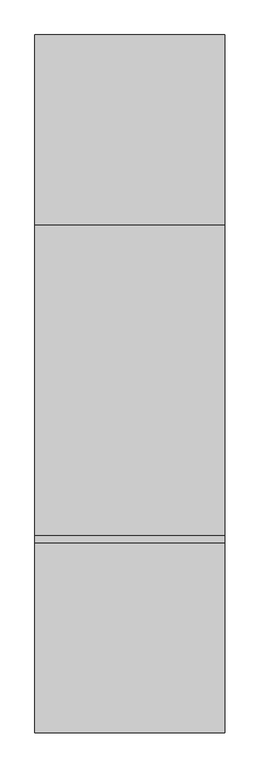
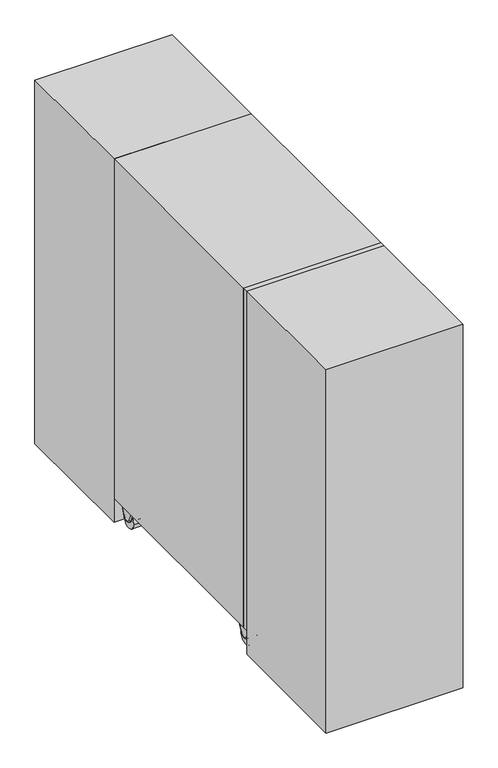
"""IFC4 building model written with IfcOpenShell, lengths in millimetres: proxy geometry, Трехфазный ИБП_ЛЕГИОН_СайберЭлектро : ЛЕГИОН-3Ф-40К-Ш."""

from ifc_helpers import new_model, si_unit, point, frame, origin, origin_with_axes, place, context, project, spatial, polyline, circle_curve, ellipse_curve, trimmed, outline, extrude, source, transform, mapped, element, save
from ifc_brep_helpers import plane_surface, cylinder_surface, revolved_surface, advanced_brep


def electrical_equipment_480f16ba(model_context):
    return source(origin(), model_context, "Body", "SolidModel", [
        advanced_brep(
        [(232.5584286, -22.026834, 73.0926887), (232.5584286, -31.2318826, 87.0), (232.5584286, -68.7681174, 87.0), (232.5584286, -77.973166, 73.0926887), (232.5584286, -63.8075728, 39.7206426), (232.5584286, -36.1924272, 39.7206426), (187.4415714, -31.2318826, 87.0), (187.4415714, -22.026834, 73.0926887), (187.4415714, -36.1924272, 39.7206426), (187.4415714, -63.8075728, 39.7206426), (187.4415714, -77.973166, 73.0926887), (187.4415714, -68.7681174, 87.0), (227.5584286, -31.2318826, 92.0), (192.4415641, -31.2318826, 92.0), (192.4415714, -68.7681174, 92.0), (227.5584286, -68.7681174, 92.0), (192.4415714, -82.5756902, 71.1390331), (227.5584286, -82.5756902, 71.1390331), (225.0, -73.1912444, 49.0306642), (225.0, -68.4100971, 37.7669869), (227.5584286, -68.4100971, 37.7669869), (192.4415714, -68.4100971, 37.7669869), (195.0, -68.4100971, 37.7669869), (195.0, -73.1912444, 49.0306642), (225.0, -31.5899029, 37.7669869), (227.5584286, -31.5899029, 37.7669869), (195.0, -31.5899029, 37.7669869), (192.4415714, -31.5899029, 37.7669869), (225.0, -26.8087556, 49.0306642), (195.0, -26.8087556, 49.0306642), (192.4415714, -17.4243098, 71.1390331), (227.5584286, -17.4243098, 71.1390331), (225.0, -80.0, 30.0), (225.0, -20.0, 30.0), (195.0, -20.0, 30.0), (195.0, -80.0, 30.0)],
        [
            (0, 1, circle_curve(frame((232.5584286, -31.2318826, 77.0), z_axis=(1.0, 0.0, 0.0), x_axis=(0.0, 0.0, 1.0)), 10.0)),
            (1, 2),
            (2, 3, circle_curve(frame((232.5584286, -68.7681174, 77.0), z_axis=(1.0, 0.0, 0.0), x_axis=(0.0, -0.9205048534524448, -0.3907311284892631)), 10.0)),
            (3, 4),
            (4, 5, circle_curve(frame((232.5584286, -50.0, 45.5816095), z_axis=(1.0, 0.0, 0.0), x_axis=(0.0, 0.9205048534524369, -0.3907311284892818)), 15.0)),
            (5, 0),
            (6, 7, circle_curve(frame((187.4415714, -31.2318826, 77.0), z_axis=(-1.0, 0.0, 0.0), x_axis=(0.0, 0.0, 1.0)), 10.0)),
            (7, 8),
            (8, 9, circle_curve(frame((187.4415714, -50.0, 45.5816095), z_axis=(-1.0, 0.0, 0.0), x_axis=(0.0, 0.9205048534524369, -0.3907311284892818)), 15.0)),
            (9, 10),
            (10, 11, circle_curve(frame((187.4415714, -68.7681174, 77.0), z_axis=(-1.0, 0.0, 0.0), x_axis=(0.0, -0.9205048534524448, -0.3907311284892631)), 10.0)),
            (11, 6),
            (12, 13),
            (13, 14),
            (14, 15),
            (15, 12),
            (14, 16, circle_curve(frame((192.4415714, -68.7681174, 77.0), z_axis=(1.0, 0.0, 0.0), x_axis=(0.0, 1.0, 0.0)), 15.0)),
            (16, 17),
            (17, 15, circle_curve(frame((227.5584286, -68.7681174, 77.0), z_axis=(-1.0, 0.0, 0.0), x_axis=(0.0, 1.0, 0.0)), 15.0)),
            (18, 19),
            (19, 20),
            (20, 17),
            (16, 21),
            (21, 22),
            (22, 23),
            (23, 18),
            (19, 24, circle_curve(frame((225.0, -50.0, 45.5816095), z_axis=(1.0, 0.0, 0.0), x_axis=(0.0, 1.0, 0.0)), 20.0)),
            (24, 25),
            (25, 20, circle_curve(frame((227.5584286, -50.0, 45.5816095), z_axis=(-1.0, 0.0, 0.0), x_axis=(0.0, 1.0, 0.0)), 20.0)),
            (26, 22, circle_curve(frame((195.0, -50.0, 45.5816095), z_axis=(-1.0, 0.0, 0.0), x_axis=(0.0, 1.0, 0.0)), 20.0)),
            (21, 27, circle_curve(frame((192.4415714, -50.0, 45.5816095), z_axis=(1.0, 0.0, 0.0), x_axis=(0.0, 1.0, 0.0)), 20.0)),
            (27, 26),
            (24, 28),
            (28, 29),
            (29, 26),
            (27, 30),
            (30, 31),
            (31, 25),
            (12, 31, circle_curve(frame((227.5584286, -31.2318826, 77.0), z_axis=(-1.0, 0.0, 0.0), x_axis=(0.0, 1.0, 0.0)), 15.0)),
            (30, 13, circle_curve(frame((192.4415714, -31.2318826, 77.0), z_axis=(1.0, 0.0, 0.0), x_axis=(0.0, 1.0, 0.0)), 15.0)),
            (32, 33, circle_curve(frame((225.0, -50.0, 30.0), z_axis=(1.0, 0.0, 0.0), x_axis=(0.0, -1.0, 0.0)), 30.0)),
            (33, 28, circle_curve(frame((225.0, -50.0, 30.0), z_axis=(1.0, 0.0, 0.0), x_axis=(0.0, -1.0, 0.0)), 30.0)),
            (18, 32, circle_curve(frame((225.0, -50.0, 30.0), z_axis=(1.0, 0.0, 0.0), x_axis=(0.0, -1.0, 0.0)), 30.0)),
            (34, 35, circle_curve(frame((195.0, -50.0, 30.0), z_axis=(-1.0, 0.0, 0.0), x_axis=(0.0, -1.0, 0.0)), 30.0)),
            (35, 23, circle_curve(frame((195.0, -50.0, 30.0), z_axis=(-1.0, 0.0, 0.0), x_axis=(0.0, -1.0, 0.0)), 30.0)),
            (29, 34, circle_curve(frame((195.0, -50.0, 30.0), z_axis=(-1.0, 0.0, 0.0), x_axis=(0.0, -1.0, 0.0)), 30.0)),
            (33, 34),
            (35, 32),
            (30, 7, circle_curve(frame((192.4415714, -22.026834, 73.0926887), z_axis=(0.0, 0.3907311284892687, 0.9205048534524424), x_axis=(-1.0, 0.0, 0.0)), 5.0)),
            (6, 13, circle_curve(frame((192.4415714, -31.2318826, 87.0), z_axis=(0.0, 1.0, 0.0), x_axis=(-1.0, 0.0, 0.0)), 5.0)),
            (0, 31, circle_curve(frame((227.5584286, -22.026834, 73.0926887), z_axis=(0.0, 0.3907311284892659, 0.9205048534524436), x_axis=(-1.0, 0.0, 0.0)), 5.0)),
            (12, 1, circle_curve(frame((227.5584286, -31.2318826, 87.0), z_axis=(0.0, 1.0, 0.0), x_axis=(-1.0, 0.0, 0.0)), 5.0)),
            (27, 8, circle_curve(frame((192.4415714, -36.1924272, 39.7206426), z_axis=(0.0, 0.3907311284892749, 0.9205048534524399), x_axis=(-1.0, 0.0, 0.0)), 5.0)),
            (5, 25, circle_curve(frame((227.5584286, -36.1924272, 39.7206426), z_axis=(0.0, 0.3907311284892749, 0.9205048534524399), x_axis=(-1.0, 0.0, 0.0)), 5.0)),
            (21, 9, circle_curve(frame((192.4415714, -63.8075728, 39.7206426), z_axis=(0.0, 0.39073112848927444, -0.9205048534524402), x_axis=(-1.0, 0.0, 0.0)), 5.0)),
            (4, 20, circle_curve(frame((227.5584286, -63.8075728, 39.7206426), z_axis=(0.0, 0.39073112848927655, -0.9205048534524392), x_axis=(-1.0, 0.0, 0.0)), 5.0)),
            (16, 10, circle_curve(frame((192.4415714, -77.973166, 73.0926887), z_axis=(0.0, 0.39073112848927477, -0.92050485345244), x_axis=(-1.0, 0.0, 0.0)), 5.0)),
            (3, 17, circle_curve(frame((227.5584286, -77.973166, 73.0926887), z_axis=(0.0, 0.39073112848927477, -0.92050485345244), x_axis=(-1.0, 0.0, 0.0)), 5.0)),
            (14, 11, circle_curve(frame((192.4415714, -68.7681174, 87.0), z_axis=(0.0, -1.0, 0.0), x_axis=(-1.0, 0.0, 0.0)), 5.0)),
            (2, 15, circle_curve(frame((227.5584286, -68.7681174, 87.0), z_axis=(0.0, -1.0, 0.0), x_axis=(-1.0, 0.0, 0.0)), 5.0)),
        ],
        [
            plane_surface(frame((232.5584286, -50.0, 92.0), z_axis=(1.0, 0.0, 0.0), x_axis=(0.0, -1.0, 0.0))),
            plane_surface(frame((187.4415714, -50.0, 92.0), z_axis=(-1.0, 0.0, 0.0), x_axis=(0.0, 1.0, 0.0))),
            plane_surface(frame((232.5584286, -31.2318826, 92.0), z_axis=(0.0, 0.0, 1.0), x_axis=(-1.0, 0.0, 0.0))),
            cylinder_surface(frame((187.4415714, -68.7681174, 77.0), z_axis=(1.0, 0.0, 0.0), x_axis=(0.0, 1.0, 0.0)), 15.0),
            plane_surface(frame((232.5584286, -82.5756902, 71.1390331), z_axis=(0.0, -0.9205048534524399, -0.39073112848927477), x_axis=(-1.0, 0.0, 0.0))),
            cylinder_surface(frame((187.4415714, -50.0, 45.5816095), z_axis=(1.0, 0.0, 0.0), x_axis=(0.0, 1.0, 0.0)), 20.0),
            plane_surface(frame((232.5584286, -31.5899029, 37.7669869), z_axis=(0.0, 0.9205048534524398, -0.3907311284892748), x_axis=(-1.0, 0.0, 0.0))),
            cylinder_surface(frame((187.4415714, -31.2318826, 77.0), z_axis=(1.0, 0.0, 0.0), x_axis=(0.0, 1.0, 0.0)), 15.0),
            plane_surface(frame((225.0, -80.0, 30.0), z_axis=(1.0, 0.0, 0.0), x_axis=(0.0, 0.0, -1.0))),
            plane_surface(frame((195.0, -80.0, 30.0), z_axis=(-1.0, 0.0, 0.0), x_axis=(0.0, 0.0, 1.0))),
            cylinder_surface(frame((195.0, -50.0, 30.0), z_axis=(1.0, 0.0, 0.0), x_axis=(0.0, -1.0, 0.0)), 30.0),
            revolved_surface(trimmed(ellipse_curve(frame((192.4415714, -31.2318826, 87.0), z_axis=(0.0, -1.0, 0.0), x_axis=(-1.0, 0.0, 0.0)), 5.0, 5.0), [point((192.4415714, -31.2318826, 92.0))], [point((187.4415714, -31.2318826, 87.0))], True, "CARTESIAN"), (187.4415714, -31.2318826, 77.0), (-1.0, 0.0, 0.0)),
            revolved_surface(trimmed(ellipse_curve(frame((227.5584286, -31.2318826, 87.0), z_axis=(0.0, -1.0, 0.0), x_axis=(-1.0, 0.0, 0.0)), 5.0, 5.0), [point((232.5584286, -31.2318826, 87.0))], [point((227.5584286, -31.2318826, 92.0))], True, "CARTESIAN"), (187.4415714, -31.2318826, 77.0), (-1.0, 0.0, 0.0)),
            cylinder_surface(frame((192.4415714, -22.026834, 73.0926887), z_axis=(0.0, -0.3907311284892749, -0.9205048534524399), x_axis=(-1.0, 0.0, 0.0)), 5.0),
            cylinder_surface(frame((227.5584286, -22.026834, 73.0926887), z_axis=(0.0, -0.3907311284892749, -0.9205048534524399), x_axis=(-1.0, 0.0, 0.0)), 5.0),
            revolved_surface(trimmed(ellipse_curve(frame((192.4415714, -36.1924272, 39.7206426), z_axis=(0.0, 0.39073112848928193, 0.9205048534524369), x_axis=(-1.0, 0.0, 0.0)), 5.0, 5.0), [point((192.4415714, -31.5899029, 37.7669869))], [point((187.4415714, -36.1924272, 39.7206426))], True, "CARTESIAN"), (187.4415714, -50.0, 45.5816095), (-1.0, 0.0, 0.0)),
            revolved_surface(trimmed(ellipse_curve(frame((227.5584286, -36.1924272, 39.7206426), z_axis=(0.0, 0.39073112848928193, 0.9205048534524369), x_axis=(-1.0, 0.0, 0.0)), 5.0, 5.0), [point((232.5584286, -36.1924272, 39.7206426))], [point((227.5584286, -31.5899029, 37.7669869))], True, "CARTESIAN"), (187.4415714, -50.0, 45.5816095), (-1.0, 0.0, 0.0)),
            cylinder_surface(frame((192.4415714, -63.8075728, 39.7206426), z_axis=(0.0, -0.39073112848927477, 0.92050485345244), x_axis=(-1.0, 0.0, 0.0)), 5.0),
            cylinder_surface(frame((227.5584286, -63.8075728, 39.7206426), z_axis=(0.0, -0.39073112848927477, 0.92050485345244), x_axis=(-1.0, 0.0, 0.0)), 5.0),
            revolved_surface(trimmed(ellipse_curve(frame((192.4415714, -77.973166, 73.0926887), z_axis=(0.0, 0.39073112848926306, -0.9205048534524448), x_axis=(-1.0, 0.0, 0.0)), 5.0, 5.0), [point((192.4415714, -82.5756902, 71.1390331))], [point((187.4415714, -77.973166, 73.0926887))], True, "CARTESIAN"), (187.4415714, -68.7681174, 77.0), (-1.0, 0.0, 0.0)),
            revolved_surface(trimmed(ellipse_curve(frame((227.5584286, -77.973166, 73.0926887), z_axis=(0.0, 0.39073112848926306, -0.9205048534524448), x_axis=(-1.0, 0.0, 0.0)), 5.0, 5.0), [point((232.5584286, -77.973166, 73.0926887))], [point((227.5584286, -82.5756902, 71.1390331))], True, "CARTESIAN"), (187.4415714, -68.7681174, 77.0), (-1.0, 0.0, 0.0)),
            cylinder_surface(frame((192.4415714, -68.7681174, 87.0), z_axis=(0.0, 1.0, 0.0), x_axis=(-1.0, 0.0, 0.0)), 5.0),
            cylinder_surface(frame((227.5584286, -68.7681174, 87.0), z_axis=(0.0, 1.0, 0.0), x_axis=(-1.0, 0.0, 0.0)), 5.0),
        ],
        [
            (0, [[1, 2, 3, 4, 5, 6]]),
            (1, [[7, 8, 9, 10, 11, 12]]),
            (2, [[13, 14, 15, 16]]),
            (3, [[-15, 17, 18, 19]]),
            (4, [[20, 21, 22, -18, 23, 24, 25, 26]]),
            (5, [[27, 28, 29, -21]]),
            (5, [[30, -24, 31, 32]]),
            (6, [[33, 34, 35, -32, 36, 37, 38, -28]]),
            (7, [[-13, 39, -37, 40]]),
            (8, [[41, 42, -33, -27, -20, 43]]),
            (9, [[44, 45, -25, -30, -35, 46]]),
            (10, [[47, -46, -34, -42]]),
            (10, [[48, -43, -26, -45]]),
            (10, [[-41, -48, -44, -47]]),
            (11, [[49, -7, 50, -40]]),
            (12, [[51, -39, 52, -1]]),
            (13, [[-49, -36, 53, -8]]),
            (14, [[-51, -6, 54, -38]]),
            (15, [[-53, -31, 55, -9]]),
            (16, [[-54, -5, 56, -29]]),
            (17, [[-55, -23, 57, -10]]),
            (18, [[-56, -4, 58, -22]]),
            (19, [[-57, -17, 59, -11]]),
            (20, [[-58, -3, 60, -19]]),
            (21, [[-50, -12, -59, -14]]),
            (22, [[-52, -16, -60, -2]]),
        ],
    ),
        advanced_brep(
        [(-187.4415714, -22.026834, 73.0926887), (-187.4415714, -31.2318826, 87.0), (-187.4415714, -68.7681174, 87.0), (-187.4415714, -77.973166, 73.0926887), (-187.4415714, -63.8075728, 39.7206426), (-187.4415714, -36.1924272, 39.7206426), (-232.5584286, -31.2318826, 87.0), (-232.5584286, -22.026834, 73.0926887), (-232.5584286, -36.1924272, 39.7206426), (-232.5584286, -63.8075728, 39.7206426), (-232.5584286, -77.973166, 73.0926887), (-232.5584286, -68.7681174, 87.0), (-192.4415714, -31.2318826, 92.0), (-227.5584359, -31.2318826, 92.0), (-227.5584286, -68.7681174, 92.0), (-192.4415714, -68.7681174, 92.0), (-227.5584286, -82.5756902, 71.1390331), (-192.4415714, -82.5756902, 71.1390331), (-195.0, -73.1912444, 49.0306642), (-195.0, -68.4100971, 37.7669869), (-192.4415714, -68.4100971, 37.7669869), (-227.5584286, -68.4100971, 37.7669869), (-225.0, -68.4100971, 37.7669869), (-225.0, -73.1912444, 49.0306642), (-195.0, -31.5899029, 37.7669869), (-192.4415714, -31.5899029, 37.7669869), (-225.0, -31.5899029, 37.7669869), (-227.5584286, -31.5899029, 37.7669869), (-195.0, -26.8087556, 49.0306642), (-225.0, -26.8087556, 49.0306642), (-227.5584286, -17.4243098, 71.1390331), (-192.4415714, -17.4243098, 71.1390331), (-195.0, -80.0, 30.0), (-195.0, -20.0, 30.0), (-225.0, -20.0, 30.0), (-225.0, -80.0, 30.0)],
        [
            (0, 1, circle_curve(frame((-187.4415714, -31.2318826, 77.0), z_axis=(1.0, 0.0, 0.0), x_axis=(0.0, 0.0, 1.0)), 10.0)),
            (1, 2),
            (2, 3, circle_curve(frame((-187.4415714, -68.7681174, 77.0), z_axis=(1.0, 0.0, 0.0), x_axis=(0.0, -0.9205048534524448, -0.3907311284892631)), 10.0)),
            (3, 4),
            (4, 5, circle_curve(frame((-187.4415714, -50.0, 45.5816095), z_axis=(1.0, 0.0, 0.0), x_axis=(0.0, 0.9205048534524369, -0.3907311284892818)), 15.0)),
            (5, 0),
            (6, 7, circle_curve(frame((-232.5584286, -31.2318826, 77.0), z_axis=(-1.0, 0.0, 0.0), x_axis=(0.0, 0.0, 1.0)), 10.0)),
            (7, 8),
            (8, 9, circle_curve(frame((-232.5584286, -50.0, 45.5816095), z_axis=(-1.0, 0.0, 0.0), x_axis=(0.0, 0.9205048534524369, -0.3907311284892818)), 15.0)),
            (9, 10),
            (10, 11, circle_curve(frame((-232.5584286, -68.7681174, 77.0), z_axis=(-1.0, 0.0, 0.0), x_axis=(0.0, -0.9205048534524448, -0.3907311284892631)), 10.0)),
            (11, 6),
            (12, 13),
            (13, 14),
            (14, 15),
            (15, 12),
            (14, 16, circle_curve(frame((-227.5584286, -68.7681174, 77.0), z_axis=(1.0, 0.0, 0.0), x_axis=(0.0, 1.0, 0.0)), 15.0)),
            (16, 17),
            (17, 15, circle_curve(frame((-192.4415714, -68.7681174, 77.0), z_axis=(-1.0, 0.0, 0.0), x_axis=(0.0, 1.0, 0.0)), 15.0)),
            (18, 19),
            (19, 20),
            (20, 17),
            (16, 21),
            (21, 22),
            (22, 23),
            (23, 18),
            (19, 24, circle_curve(frame((-195.0, -50.0, 45.5816095), z_axis=(1.0, 0.0, 0.0), x_axis=(0.0, 1.0, 0.0)), 20.0)),
            (24, 25),
            (25, 20, circle_curve(frame((-192.4415714, -50.0, 45.5816095), z_axis=(-1.0, 0.0, 0.0), x_axis=(0.0, 1.0, 0.0)), 20.0)),
            (26, 22, circle_curve(frame((-225.0, -50.0, 45.5816095), z_axis=(-1.0, 0.0, 0.0), x_axis=(0.0, 1.0, 0.0)), 20.0)),
            (21, 27, circle_curve(frame((-227.5584286, -50.0, 45.5816095), z_axis=(1.0, 0.0, 0.0), x_axis=(0.0, 1.0, 0.0)), 20.0)),
            (27, 26),
            (24, 28),
            (28, 29),
            (29, 26),
            (27, 30),
            (30, 31),
            (31, 25),
            (12, 31, circle_curve(frame((-192.4415714, -31.2318826, 77.0), z_axis=(-1.0, 0.0, 0.0), x_axis=(0.0, 1.0, 0.0)), 15.0)),
            (30, 13, circle_curve(frame((-227.5584286, -31.2318826, 77.0), z_axis=(1.0, 0.0, 0.0), x_axis=(0.0, 1.0, 0.0)), 15.0)),
            (32, 33, circle_curve(frame((-195.0, -50.0, 30.0), z_axis=(1.0, 0.0, 0.0), x_axis=(0.0, -1.0, 0.0)), 30.0)),
            (33, 28, circle_curve(frame((-195.0, -50.0, 30.0), z_axis=(1.0, 0.0, 0.0), x_axis=(0.0, -1.0, 0.0)), 30.0)),
            (18, 32, circle_curve(frame((-195.0, -50.0, 30.0), z_axis=(1.0, 0.0, 0.0), x_axis=(0.0, -1.0, 0.0)), 30.0)),
            (34, 35, circle_curve(frame((-225.0, -50.0, 30.0), z_axis=(-1.0, 0.0, 0.0), x_axis=(0.0, -1.0, 0.0)), 30.0)),
            (35, 23, circle_curve(frame((-225.0, -50.0, 30.0), z_axis=(-1.0, 0.0, 0.0), x_axis=(0.0, -1.0, 0.0)), 30.0)),
            (29, 34, circle_curve(frame((-225.0, -50.0, 30.0), z_axis=(-1.0, 0.0, 0.0), x_axis=(0.0, -1.0, 0.0)), 30.0)),
            (33, 34),
            (35, 32),
            (30, 7, circle_curve(frame((-227.5584286, -22.026834, 73.0926887), z_axis=(0.0, 0.3907311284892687, 0.9205048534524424), x_axis=(-1.0, 0.0, 0.0)), 5.0)),
            (6, 13, circle_curve(frame((-227.5584286, -31.2318826, 87.0), z_axis=(0.0, 1.0, 0.0), x_axis=(-1.0, 0.0, 0.0)), 5.0)),
            (0, 31, circle_curve(frame((-192.4415714, -22.026834, 73.0926887), z_axis=(0.0, 0.3907311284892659, 0.9205048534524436), x_axis=(-1.0, 0.0, 0.0)), 5.0)),
            (12, 1, circle_curve(frame((-192.4415714, -31.2318826, 87.0), z_axis=(0.0, 1.0, 0.0), x_axis=(-1.0, 0.0, 0.0)), 5.0)),
            (27, 8, circle_curve(frame((-227.5584286, -36.1924272, 39.7206426), z_axis=(0.0, 0.3907311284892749, 0.9205048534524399), x_axis=(-1.0, 0.0, 0.0)), 5.0)),
            (5, 25, circle_curve(frame((-192.4415714, -36.1924272, 39.7206426), z_axis=(0.0, 0.3907311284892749, 0.9205048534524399), x_axis=(-1.0, 0.0, 0.0)), 5.0)),
            (21, 9, circle_curve(frame((-227.5584286, -63.8075728, 39.7206426), z_axis=(0.0, 0.39073112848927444, -0.9205048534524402), x_axis=(-1.0, 0.0, 0.0)), 5.0)),
            (4, 20, circle_curve(frame((-192.4415714, -63.8075728, 39.7206426), z_axis=(0.0, 0.39073112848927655, -0.9205048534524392), x_axis=(-1.0, 0.0, 0.0)), 5.0)),
            (16, 10, circle_curve(frame((-227.5584286, -77.973166, 73.0926887), z_axis=(0.0, 0.39073112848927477, -0.92050485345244), x_axis=(-1.0, 0.0, 0.0)), 5.0)),
            (3, 17, circle_curve(frame((-192.4415714, -77.973166, 73.0926887), z_axis=(0.0, 0.39073112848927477, -0.92050485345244), x_axis=(-1.0, 0.0, 0.0)), 5.0)),
            (14, 11, circle_curve(frame((-227.5584286, -68.7681174, 87.0), z_axis=(0.0, -1.0, 0.0), x_axis=(-1.0, 0.0, 0.0)), 5.0)),
            (2, 15, circle_curve(frame((-192.4415714, -68.7681174, 87.0), z_axis=(0.0, -1.0, 0.0), x_axis=(-1.0, 0.0, 0.0)), 5.0)),
        ],
        [
            plane_surface(frame((-187.4415714, -50.0, 92.0), z_axis=(1.0, 0.0, 0.0), x_axis=(0.0, -1.0, 0.0))),
            plane_surface(frame((-232.5584286, -50.0, 92.0), z_axis=(-1.0, 0.0, 0.0), x_axis=(0.0, 1.0, 0.0))),
            plane_surface(frame((-187.4415714, -31.2318826, 92.0), z_axis=(0.0, 0.0, 1.0), x_axis=(-1.0, 0.0, 0.0))),
            cylinder_surface(frame((-232.5584286, -68.7681174, 77.0), z_axis=(1.0, 0.0, 0.0), x_axis=(0.0, 1.0, 0.0)), 15.0),
            plane_surface(frame((-187.4415714, -82.5756902, 71.1390331), z_axis=(0.0, -0.9205048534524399, -0.39073112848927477), x_axis=(-1.0, 0.0, 0.0))),
            cylinder_surface(frame((-232.5584286, -50.0, 45.5816095), z_axis=(1.0, 0.0, 0.0), x_axis=(0.0, 1.0, 0.0)), 20.0),
            plane_surface(frame((-187.4415714, -31.5899029, 37.7669869), z_axis=(0.0, 0.9205048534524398, -0.3907311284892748), x_axis=(-1.0, 0.0, 0.0))),
            cylinder_surface(frame((-232.5584286, -31.2318826, 77.0), z_axis=(1.0, 0.0, 0.0), x_axis=(0.0, 1.0, 0.0)), 15.0),
            plane_surface(frame((-195.0, -80.0, 30.0), z_axis=(1.0, 0.0, 0.0), x_axis=(0.0, 0.0, -1.0))),
            plane_surface(frame((-225.0, -80.0, 30.0), z_axis=(-1.0, 0.0, 0.0), x_axis=(0.0, 0.0, 1.0))),
            cylinder_surface(frame((-225.0, -50.0, 30.0), z_axis=(1.0, 0.0, 0.0), x_axis=(0.0, -1.0, 0.0)), 30.0),
            revolved_surface(trimmed(ellipse_curve(frame((-227.5584286, -31.2318826, 87.0), z_axis=(0.0, -1.0, 0.0), x_axis=(-1.0, 0.0, 0.0)), 5.0, 5.0), [point((-227.5584286, -31.2318826, 92.0))], [point((-232.5584286, -31.2318826, 87.0))], True, "CARTESIAN"), (-232.5584286, -31.2318826, 77.0), (-1.0, 0.0, 0.0)),
            revolved_surface(trimmed(ellipse_curve(frame((-192.4415714, -31.2318826, 87.0), z_axis=(0.0, -1.0, 0.0), x_axis=(-1.0, 0.0, 0.0)), 5.0, 5.0), [point((-187.4415714, -31.2318826, 87.0))], [point((-192.4415714, -31.2318826, 92.0))], True, "CARTESIAN"), (-232.5584286, -31.2318826, 77.0), (-1.0, 0.0, 0.0)),
            cylinder_surface(frame((-227.5584286, -22.026834, 73.0926887), z_axis=(0.0, -0.3907311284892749, -0.9205048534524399), x_axis=(-1.0, 0.0, 0.0)), 5.0),
            cylinder_surface(frame((-192.4415714, -22.026834, 73.0926887), z_axis=(0.0, -0.3907311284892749, -0.9205048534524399), x_axis=(-1.0, 0.0, 0.0)), 5.0),
            revolved_surface(trimmed(ellipse_curve(frame((-227.5584286, -36.1924272, 39.7206426), z_axis=(0.0, 0.39073112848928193, 0.9205048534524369), x_axis=(-1.0, 0.0, 0.0)), 5.0, 5.0), [point((-227.5584286, -31.5899029, 37.7669869))], [point((-232.5584286, -36.1924272, 39.7206426))], True, "CARTESIAN"), (-232.5584286, -50.0, 45.5816095), (-1.0, 0.0, 0.0)),
            revolved_surface(trimmed(ellipse_curve(frame((-192.4415714, -36.1924272, 39.7206426), z_axis=(0.0, 0.39073112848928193, 0.9205048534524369), x_axis=(-1.0, 0.0, 0.0)), 5.0, 5.0), [point((-187.4415714, -36.1924272, 39.7206426))], [point((-192.4415714, -31.5899029, 37.7669869))], True, "CARTESIAN"), (-232.5584286, -50.0, 45.5816095), (-1.0, 0.0, 0.0)),
            cylinder_surface(frame((-227.5584286, -63.8075728, 39.7206426), z_axis=(0.0, -0.39073112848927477, 0.92050485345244), x_axis=(-1.0, 0.0, 0.0)), 5.0),
            cylinder_surface(frame((-192.4415714, -63.8075728, 39.7206426), z_axis=(0.0, -0.39073112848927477, 0.92050485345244), x_axis=(-1.0, 0.0, 0.0)), 5.0),
            revolved_surface(trimmed(ellipse_curve(frame((-227.5584286, -77.973166, 73.0926887), z_axis=(0.0, 0.39073112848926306, -0.9205048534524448), x_axis=(-1.0, 0.0, 0.0)), 5.0, 5.0), [point((-227.5584286, -82.5756902, 71.1390331))], [point((-232.5584286, -77.973166, 73.0926887))], True, "CARTESIAN"), (-232.5584286, -68.7681174, 77.0), (-1.0, 0.0, 0.0)),
            revolved_surface(trimmed(ellipse_curve(frame((-192.4415714, -77.973166, 73.0926887), z_axis=(0.0, 0.39073112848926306, -0.9205048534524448), x_axis=(-1.0, 0.0, 0.0)), 5.0, 5.0), [point((-187.4415714, -77.973166, 73.0926887))], [point((-192.4415714, -82.5756902, 71.1390331))], True, "CARTESIAN"), (-232.5584286, -68.7681174, 77.0), (-1.0, 0.0, 0.0)),
            cylinder_surface(frame((-227.5584286, -68.7681174, 87.0), z_axis=(0.0, 1.0, 0.0), x_axis=(-1.0, 0.0, 0.0)), 5.0),
            cylinder_surface(frame((-192.4415714, -68.7681174, 87.0), z_axis=(0.0, 1.0, 0.0), x_axis=(-1.0, 0.0, 0.0)), 5.0),
        ],
        [
            (0, [[1, 2, 3, 4, 5, 6]]),
            (1, [[7, 8, 9, 10, 11, 12]]),
            (2, [[13, 14, 15, 16]]),
            (3, [[-15, 17, 18, 19]]),
            (4, [[20, 21, 22, -18, 23, 24, 25, 26]]),
            (5, [[27, 28, 29, -21]]),
            (5, [[30, -24, 31, 32]]),
            (6, [[33, 34, 35, -32, 36, 37, 38, -28]]),
            (7, [[-13, 39, -37, 40]]),
            (8, [[41, 42, -33, -27, -20, 43]]),
            (9, [[44, 45, -25, -30, -35, 46]]),
            (10, [[47, -46, -34, -42]]),
            (10, [[48, -43, -26, -45]]),
            (10, [[-41, -48, -44, -47]]),
            (11, [[49, -7, 50, -40]]),
            (12, [[51, -39, 52, -1]]),
            (13, [[-49, -36, 53, -8]]),
            (14, [[-51, -6, 54, -38]]),
            (15, [[-53, -31, 55, -9]]),
            (16, [[-54, -5, 56, -29]]),
            (17, [[-55, -23, 57, -10]]),
            (18, [[-56, -4, 58, -22]]),
            (19, [[-57, -17, 59, -11]]),
            (20, [[-58, -3, 60, -19]]),
            (21, [[-50, -12, -59, -14]]),
            (22, [[-52, -16, -60, -2]]),
        ],
    ),
        advanced_brep(
        [(232.5584286, -762.026834, 73.0926887), (232.5584286, -771.2318826, 87.0), (232.5584286, -808.7681174, 87.0), (232.5584286, -817.973166, 73.0926887), (232.5584286, -803.8075728, 39.7206426), (232.5584286, -776.1924272, 39.7206426), (187.4415714, -771.2318826, 87.0), (187.4415714, -762.026834, 73.0926887), (187.4415714, -776.1924272, 39.7206426), (187.4415714, -803.8075728, 39.7206426), (187.4415714, -817.973166, 73.0926887), (187.4415714, -808.7681174, 87.0), (227.5584286, -771.2318826, 92.0), (192.4415641, -771.2318826, 92.0), (192.4415714, -808.7681174, 92.0), (227.5584286, -808.7681174, 92.0), (192.4415714, -822.5756902, 71.1390331), (227.5584286, -822.5756902, 71.1390331), (225.0, -813.1912444, 49.0306642), (225.0, -808.4100971, 37.7669869), (227.5584286, -808.4100971, 37.7669869), (192.4415714, -808.4100971, 37.7669869), (195.0, -808.4100971, 37.7669869), (195.0, -813.1912444, 49.0306642), (225.0, -771.5899029, 37.7669869), (227.5584286, -771.5899029, 37.7669869), (195.0, -771.5899029, 37.7669869), (192.4415714, -771.5899029, 37.7669869), (225.0, -766.8087556, 49.0306642), (195.0, -766.8087556, 49.0306642), (192.4415714, -757.4243098, 71.1390331), (227.5584286, -757.4243098, 71.1390331), (225.0, -820.0, 30.0), (225.0, -760.0, 30.0), (195.0, -760.0, 30.0), (195.0, -820.0, 30.0)],
        [
            (0, 1, circle_curve(frame((232.5584286, -771.2318826, 77.0), z_axis=(1.0, 0.0, 0.0), x_axis=(0.0, 0.0, 1.0)), 10.0)),
            (1, 2),
            (2, 3, circle_curve(frame((232.5584286, -808.7681174, 77.0), z_axis=(1.0, 0.0, 0.0), x_axis=(0.0, -0.9205048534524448, -0.3907311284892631)), 10.0)),
            (3, 4),
            (4, 5, circle_curve(frame((232.5584286, -790.0, 45.5816095), z_axis=(1.0, 0.0, 0.0), x_axis=(0.0, 0.9205048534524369, -0.3907311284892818)), 15.0)),
            (5, 0),
            (6, 7, circle_curve(frame((187.4415714, -771.2318826, 77.0), z_axis=(-1.0, 0.0, 0.0), x_axis=(0.0, 0.0, 1.0)), 10.0)),
            (7, 8),
            (8, 9, circle_curve(frame((187.4415714, -790.0, 45.5816095), z_axis=(-1.0, 0.0, 0.0), x_axis=(0.0, 0.9205048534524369, -0.3907311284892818)), 15.0)),
            (9, 10),
            (10, 11, circle_curve(frame((187.4415714, -808.7681174, 77.0), z_axis=(-1.0, 0.0, 0.0), x_axis=(0.0, -0.9205048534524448, -0.3907311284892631)), 10.0)),
            (11, 6),
            (12, 13),
            (13, 14),
            (14, 15),
            (15, 12),
            (14, 16, circle_curve(frame((192.4415714, -808.7681174, 77.0), z_axis=(1.0, 0.0, 0.0), x_axis=(0.0, 1.0, 0.0)), 15.0)),
            (16, 17),
            (17, 15, circle_curve(frame((227.5584286, -808.7681174, 77.0), z_axis=(-1.0, 0.0, 0.0), x_axis=(0.0, 1.0, 0.0)), 15.0)),
            (18, 19),
            (19, 20),
            (20, 17),
            (16, 21),
            (21, 22),
            (22, 23),
            (23, 18),
            (19, 24, circle_curve(frame((225.0, -790.0, 45.5816095), z_axis=(1.0, 0.0, 0.0), x_axis=(0.0, 1.0, 0.0)), 20.0)),
            (24, 25),
            (25, 20, circle_curve(frame((227.5584286, -790.0, 45.5816095), z_axis=(-1.0, 0.0, 0.0), x_axis=(0.0, 1.0, 0.0)), 20.0)),
            (26, 22, circle_curve(frame((195.0, -790.0, 45.5816095), z_axis=(-1.0, 0.0, 0.0), x_axis=(0.0, 1.0, 0.0)), 20.0)),
            (21, 27, circle_curve(frame((192.4415714, -790.0, 45.5816095), z_axis=(1.0, 0.0, 0.0), x_axis=(0.0, 1.0, 0.0)), 20.0)),
            (27, 26),
            (24, 28),
            (28, 29),
            (29, 26),
            (27, 30),
            (30, 31),
            (31, 25),
            (12, 31, circle_curve(frame((227.5584286, -771.2318826, 77.0), z_axis=(-1.0, 0.0, 0.0), x_axis=(0.0, 1.0, 0.0)), 15.0)),
            (30, 13, circle_curve(frame((192.4415714, -771.2318826, 77.0), z_axis=(1.0, 0.0, 0.0), x_axis=(0.0, 1.0, 0.0)), 15.0)),
            (32, 33, circle_curve(frame((225.0, -790.0, 30.0), z_axis=(1.0, 0.0, 0.0), x_axis=(0.0, -1.0, 0.0)), 30.0)),
            (33, 28, circle_curve(frame((225.0, -790.0, 30.0), z_axis=(1.0, 0.0, 0.0), x_axis=(0.0, -1.0, 0.0)), 30.0)),
            (18, 32, circle_curve(frame((225.0, -790.0, 30.0), z_axis=(1.0, 0.0, 0.0), x_axis=(0.0, -1.0, 0.0)), 30.0)),
            (34, 35, circle_curve(frame((195.0, -790.0, 30.0), z_axis=(-1.0, 0.0, 0.0), x_axis=(0.0, -1.0, 0.0)), 30.0)),
            (35, 23, circle_curve(frame((195.0, -790.0, 30.0), z_axis=(-1.0, 0.0, 0.0), x_axis=(0.0, -1.0, 0.0)), 30.0)),
            (29, 34, circle_curve(frame((195.0, -790.0, 30.0), z_axis=(-1.0, 0.0, 0.0), x_axis=(0.0, -1.0, 0.0)), 30.0)),
            (33, 34),
            (35, 32),
            (30, 7, circle_curve(frame((192.4415714, -762.026834, 73.0926887), z_axis=(0.0, 0.3907311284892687, 0.9205048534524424), x_axis=(-1.0, 0.0, 0.0)), 5.0)),
            (6, 13, circle_curve(frame((192.4415714, -771.2318826, 87.0), z_axis=(0.0, 1.0, 0.0), x_axis=(-1.0, 0.0, 0.0)), 5.0)),
            (0, 31, circle_curve(frame((227.5584286, -762.026834, 73.0926887), z_axis=(0.0, 0.3907311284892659, 0.9205048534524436), x_axis=(-1.0, 0.0, 0.0)), 5.0)),
            (12, 1, circle_curve(frame((227.5584286, -771.2318826, 87.0), z_axis=(0.0, 1.0, 0.0), x_axis=(-1.0, 0.0, 0.0)), 5.0)),
            (27, 8, circle_curve(frame((192.4415714, -776.1924272, 39.7206426), z_axis=(0.0, 0.3907311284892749, 0.9205048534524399), x_axis=(-1.0, 0.0, 0.0)), 5.0)),
            (5, 25, circle_curve(frame((227.5584286, -776.1924272, 39.7206426), z_axis=(0.0, 0.3907311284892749, 0.9205048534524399), x_axis=(-1.0, 0.0, 0.0)), 5.0)),
            (21, 9, circle_curve(frame((192.4415714, -803.8075728, 39.7206426), z_axis=(0.0, 0.39073112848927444, -0.9205048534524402), x_axis=(-1.0, 0.0, 0.0)), 5.0)),
            (4, 20, circle_curve(frame((227.5584286, -803.8075728, 39.7206426), z_axis=(0.0, 0.39073112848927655, -0.9205048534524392), x_axis=(-1.0, 0.0, 0.0)), 5.0)),
            (16, 10, circle_curve(frame((192.4415714, -817.973166, 73.0926887), z_axis=(0.0, 0.39073112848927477, -0.92050485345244), x_axis=(-1.0, 0.0, 0.0)), 5.0)),
            (3, 17, circle_curve(frame((227.5584286, -817.973166, 73.0926887), z_axis=(0.0, 0.39073112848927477, -0.92050485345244), x_axis=(-1.0, 0.0, 0.0)), 5.0)),
            (14, 11, circle_curve(frame((192.4415714, -808.7681174, 87.0), z_axis=(0.0, -1.0, 0.0), x_axis=(-1.0, 0.0, 0.0)), 5.0)),
            (2, 15, circle_curve(frame((227.5584286, -808.7681174, 87.0), z_axis=(0.0, -1.0, 0.0), x_axis=(-1.0, 0.0, 0.0)), 5.0)),
        ],
        [
            plane_surface(frame((232.5584286, -790.0, 92.0), z_axis=(1.0, 0.0, 0.0), x_axis=(0.0, -1.0, 0.0))),
            plane_surface(frame((187.4415714, -790.0, 92.0), z_axis=(-1.0, 0.0, 0.0), x_axis=(0.0, 1.0, 0.0))),
            plane_surface(frame((232.5584286, -771.2318826, 92.0), z_axis=(0.0, 0.0, 1.0), x_axis=(-1.0, 0.0, 0.0))),
            cylinder_surface(frame((187.4415714, -808.7681174, 77.0), z_axis=(1.0, 0.0, 0.0), x_axis=(0.0, 1.0, 0.0)), 15.0),
            plane_surface(frame((232.5584286, -822.5756902, 71.1390331), z_axis=(0.0, -0.9205048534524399, -0.39073112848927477), x_axis=(-1.0, 0.0, 0.0))),
            cylinder_surface(frame((187.4415714, -790.0, 45.5816095), z_axis=(1.0, 0.0, 0.0), x_axis=(0.0, 1.0, 0.0)), 20.0),
            plane_surface(frame((232.5584286, -771.5899029, 37.7669869), z_axis=(0.0, 0.9205048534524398, -0.3907311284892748), x_axis=(-1.0, 0.0, 0.0))),
            cylinder_surface(frame((187.4415714, -771.2318826, 77.0), z_axis=(1.0, 0.0, 0.0), x_axis=(0.0, 1.0, 0.0)), 15.0),
            plane_surface(frame((225.0, -820.0, 30.0), z_axis=(1.0, 0.0, 0.0), x_axis=(0.0, 0.0, -1.0))),
            plane_surface(frame((195.0, -820.0, 30.0), z_axis=(-1.0, 0.0, 0.0), x_axis=(0.0, 0.0, 1.0))),
            cylinder_surface(frame((195.0, -790.0, 30.0), z_axis=(1.0, 0.0, 0.0), x_axis=(0.0, -1.0, 0.0)), 30.0),
            revolved_surface(trimmed(ellipse_curve(frame((192.4415714, -771.2318826, 87.0), z_axis=(0.0, -1.0, 0.0), x_axis=(-1.0, 0.0, 0.0)), 5.0, 5.0), [point((192.4415714, -771.2318826, 92.0))], [point((187.4415714, -771.2318826, 87.0))], True, "CARTESIAN"), (187.4415714, -771.2318826, 77.0), (-1.0, 0.0, 0.0)),
            revolved_surface(trimmed(ellipse_curve(frame((227.5584286, -771.2318826, 87.0), z_axis=(0.0, -1.0, 0.0), x_axis=(-1.0, 0.0, 0.0)), 5.0, 5.0), [point((232.5584286, -771.2318826, 87.0))], [point((227.5584286, -771.2318826, 92.0))], True, "CARTESIAN"), (187.4415714, -771.2318826, 77.0), (-1.0, 0.0, 0.0)),
            cylinder_surface(frame((192.4415714, -762.026834, 73.0926887), z_axis=(0.0, -0.3907311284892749, -0.9205048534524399), x_axis=(-1.0, 0.0, 0.0)), 5.0),
            cylinder_surface(frame((227.5584286, -762.026834, 73.0926887), z_axis=(0.0, -0.3907311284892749, -0.9205048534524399), x_axis=(-1.0, 0.0, 0.0)), 5.0),
            revolved_surface(trimmed(ellipse_curve(frame((192.4415714, -776.1924272, 39.7206426), z_axis=(0.0, 0.39073112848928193, 0.9205048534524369), x_axis=(-1.0, 0.0, 0.0)), 5.0, 5.0), [point((192.4415714, -771.5899029, 37.7669869))], [point((187.4415714, -776.1924272, 39.7206426))], True, "CARTESIAN"), (187.4415714, -790.0, 45.5816095), (-1.0, 0.0, 0.0)),
            revolved_surface(trimmed(ellipse_curve(frame((227.5584286, -776.1924272, 39.7206426), z_axis=(0.0, 0.39073112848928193, 0.9205048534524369), x_axis=(-1.0, 0.0, 0.0)), 5.0, 5.0), [point((232.5584286, -776.1924272, 39.7206426))], [point((227.5584286, -771.5899029, 37.7669869))], True, "CARTESIAN"), (187.4415714, -790.0, 45.5816095), (-1.0, 0.0, 0.0)),
            cylinder_surface(frame((192.4415714, -803.8075728, 39.7206426), z_axis=(0.0, -0.39073112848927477, 0.92050485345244), x_axis=(-1.0, 0.0, 0.0)), 5.0),
            cylinder_surface(frame((227.5584286, -803.8075728, 39.7206426), z_axis=(0.0, -0.39073112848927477, 0.92050485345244), x_axis=(-1.0, 0.0, 0.0)), 5.0),
            revolved_surface(trimmed(ellipse_curve(frame((192.4415714, -817.973166, 73.0926887), z_axis=(0.0, 0.39073112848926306, -0.9205048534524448), x_axis=(-1.0, 0.0, 0.0)), 5.0, 5.0), [point((192.4415714, -822.5756902, 71.1390331))], [point((187.4415714, -817.973166, 73.0926887))], True, "CARTESIAN"), (187.4415714, -808.7681174, 77.0), (-1.0, 0.0, 0.0)),
            revolved_surface(trimmed(ellipse_curve(frame((227.5584286, -817.973166, 73.0926887), z_axis=(0.0, 0.39073112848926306, -0.9205048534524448), x_axis=(-1.0, 0.0, 0.0)), 5.0, 5.0), [point((232.5584286, -817.973166, 73.0926887))], [point((227.5584286, -822.5756902, 71.1390331))], True, "CARTESIAN"), (187.4415714, -808.7681174, 77.0), (-1.0, 0.0, 0.0)),
            cylinder_surface(frame((192.4415714, -808.7681174, 87.0), z_axis=(0.0, 1.0, 0.0), x_axis=(-1.0, 0.0, 0.0)), 5.0),
            cylinder_surface(frame((227.5584286, -808.7681174, 87.0), z_axis=(0.0, 1.0, 0.0), x_axis=(-1.0, 0.0, 0.0)), 5.0),
        ],
        [
            (0, [[1, 2, 3, 4, 5, 6]]),
            (1, [[7, 8, 9, 10, 11, 12]]),
            (2, [[13, 14, 15, 16]]),
            (3, [[-15, 17, 18, 19]]),
            (4, [[20, 21, 22, -18, 23, 24, 25, 26]]),
            (5, [[27, 28, 29, -21]]),
            (5, [[30, -24, 31, 32]]),
            (6, [[33, 34, 35, -32, 36, 37, 38, -28]]),
            (7, [[-13, 39, -37, 40]]),
            (8, [[41, 42, -33, -27, -20, 43]]),
            (9, [[44, 45, -25, -30, -35, 46]]),
            (10, [[47, -46, -34, -42]]),
            (10, [[48, -43, -26, -45]]),
            (10, [[-41, -48, -44, -47]]),
            (11, [[49, -7, 50, -40]]),
            (12, [[51, -39, 52, -1]]),
            (13, [[-49, -36, 53, -8]]),
            (14, [[-51, -6, 54, -38]]),
            (15, [[-53, -31, 55, -9]]),
            (16, [[-54, -5, 56, -29]]),
            (17, [[-55, -23, 57, -10]]),
            (18, [[-56, -4, 58, -22]]),
            (19, [[-57, -17, 59, -11]]),
            (20, [[-58, -3, 60, -19]]),
            (21, [[-50, -12, -59, -14]]),
            (22, [[-52, -16, -60, -2]]),
        ],
    ),
        advanced_brep(
        [(-187.4415714, -762.026834, 73.0926887), (-187.4415714, -771.2318826, 87.0), (-187.4415714, -808.7681174, 87.0), (-187.4415714, -817.973166, 73.0926887), (-187.4415714, -803.8075728, 39.7206426), (-187.4415714, -776.1924272, 39.7206426), (-232.5584286, -771.2318826, 87.0), (-232.5584286, -762.026834, 73.0926887), (-232.5584286, -776.1924272, 39.7206426), (-232.5584286, -803.8075728, 39.7206426), (-232.5584286, -817.973166, 73.0926887), (-232.5584286, -808.7681174, 87.0), (-192.4415714, -771.2318826, 92.0), (-227.5584359, -771.2318826, 92.0), (-227.5584286, -808.7681174, 92.0), (-192.4415714, -808.7681174, 92.0), (-227.5584286, -822.5756902, 71.1390331), (-192.4415714, -822.5756902, 71.1390331), (-195.0, -813.1912444, 49.0306642), (-195.0, -808.4100971, 37.7669869), (-192.4415714, -808.4100971, 37.7669869), (-227.5584286, -808.4100971, 37.7669869), (-225.0, -808.4100971, 37.7669869), (-225.0, -813.1912444, 49.0306642), (-195.0, -771.5899029, 37.7669869), (-192.4415714, -771.5899029, 37.7669869), (-225.0, -771.5899029, 37.7669869), (-227.5584286, -771.5899029, 37.7669869), (-195.0, -766.8087556, 49.0306642), (-225.0, -766.8087556, 49.0306642), (-227.5584286, -757.4243098, 71.1390331), (-192.4415714, -757.4243098, 71.1390331), (-195.0, -820.0, 30.0), (-195.0, -760.0, 30.0), (-225.0, -760.0, 30.0), (-225.0, -820.0, 30.0)],
        [
            (0, 1, circle_curve(frame((-187.4415714, -771.2318826, 77.0), z_axis=(1.0, 0.0, 0.0), x_axis=(0.0, 0.0, 1.0)), 10.0)),
            (1, 2),
            (2, 3, circle_curve(frame((-187.4415714, -808.7681174, 77.0), z_axis=(1.0, 0.0, 0.0), x_axis=(0.0, -0.9205048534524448, -0.3907311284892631)), 10.0)),
            (3, 4),
            (4, 5, circle_curve(frame((-187.4415714, -790.0, 45.5816095), z_axis=(1.0, 0.0, 0.0), x_axis=(0.0, 0.9205048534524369, -0.3907311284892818)), 15.0)),
            (5, 0),
            (6, 7, circle_curve(frame((-232.5584286, -771.2318826, 77.0), z_axis=(-1.0, 0.0, 0.0), x_axis=(0.0, 0.0, 1.0)), 10.0)),
            (7, 8),
            (8, 9, circle_curve(frame((-232.5584286, -790.0, 45.5816095), z_axis=(-1.0, 0.0, 0.0), x_axis=(0.0, 0.9205048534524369, -0.3907311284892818)), 15.0)),
            (9, 10),
            (10, 11, circle_curve(frame((-232.5584286, -808.7681174, 77.0), z_axis=(-1.0, 0.0, 0.0), x_axis=(0.0, -0.9205048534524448, -0.3907311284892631)), 10.0)),
            (11, 6),
            (12, 13),
            (13, 14),
            (14, 15),
            (15, 12),
            (14, 16, circle_curve(frame((-227.5584286, -808.7681174, 77.0), z_axis=(1.0, 0.0, 0.0), x_axis=(0.0, 1.0, 0.0)), 15.0)),
            (16, 17),
            (17, 15, circle_curve(frame((-192.4415714, -808.7681174, 77.0), z_axis=(-1.0, 0.0, 0.0), x_axis=(0.0, 1.0, 0.0)), 15.0)),
            (18, 19),
            (19, 20),
            (20, 17),
            (16, 21),
            (21, 22),
            (22, 23),
            (23, 18),
            (19, 24, circle_curve(frame((-195.0, -790.0, 45.5816095), z_axis=(1.0, 0.0, 0.0), x_axis=(0.0, 1.0, 0.0)), 20.0)),
            (24, 25),
            (25, 20, circle_curve(frame((-192.4415714, -790.0, 45.5816095), z_axis=(-1.0, 0.0, 0.0), x_axis=(0.0, 1.0, 0.0)), 20.0)),
            (26, 22, circle_curve(frame((-225.0, -790.0, 45.5816095), z_axis=(-1.0, 0.0, 0.0), x_axis=(0.0, 1.0, 0.0)), 20.0)),
            (21, 27, circle_curve(frame((-227.5584286, -790.0, 45.5816095), z_axis=(1.0, 0.0, 0.0), x_axis=(0.0, 1.0, 0.0)), 20.0)),
            (27, 26),
            (24, 28),
            (28, 29),
            (29, 26),
            (27, 30),
            (30, 31),
            (31, 25),
            (12, 31, circle_curve(frame((-192.4415714, -771.2318826, 77.0), z_axis=(-1.0, 0.0, 0.0), x_axis=(0.0, 1.0, 0.0)), 15.0)),
            (30, 13, circle_curve(frame((-227.5584286, -771.2318826, 77.0), z_axis=(1.0, 0.0, 0.0), x_axis=(0.0, 1.0, 0.0)), 15.0)),
            (32, 33, circle_curve(frame((-195.0, -790.0, 30.0), z_axis=(1.0, 0.0, 0.0), x_axis=(0.0, -1.0, 0.0)), 30.0)),
            (33, 28, circle_curve(frame((-195.0, -790.0, 30.0), z_axis=(1.0, 0.0, 0.0), x_axis=(0.0, -1.0, 0.0)), 30.0)),
            (18, 32, circle_curve(frame((-195.0, -790.0, 30.0), z_axis=(1.0, 0.0, 0.0), x_axis=(0.0, -1.0, 0.0)), 30.0)),
            (34, 35, circle_curve(frame((-225.0, -790.0, 30.0), z_axis=(-1.0, 0.0, 0.0), x_axis=(0.0, -1.0, 0.0)), 30.0)),
            (35, 23, circle_curve(frame((-225.0, -790.0, 30.0), z_axis=(-1.0, 0.0, 0.0), x_axis=(0.0, -1.0, 0.0)), 30.0)),
            (29, 34, circle_curve(frame((-225.0, -790.0, 30.0), z_axis=(-1.0, 0.0, 0.0), x_axis=(0.0, -1.0, 0.0)), 30.0)),
            (33, 34),
            (35, 32),
            (30, 7, circle_curve(frame((-227.5584286, -762.026834, 73.0926887), z_axis=(0.0, 0.3907311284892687, 0.9205048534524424), x_axis=(-1.0, 0.0, 0.0)), 5.0)),
            (6, 13, circle_curve(frame((-227.5584286, -771.2318826, 87.0), z_axis=(0.0, 1.0, 0.0), x_axis=(-1.0, 0.0, 0.0)), 5.0)),
            (0, 31, circle_curve(frame((-192.4415714, -762.026834, 73.0926887), z_axis=(0.0, 0.3907311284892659, 0.9205048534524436), x_axis=(-1.0, 0.0, 0.0)), 5.0)),
            (12, 1, circle_curve(frame((-192.4415714, -771.2318826, 87.0), z_axis=(0.0, 1.0, 0.0), x_axis=(-1.0, 0.0, 0.0)), 5.0)),
            (27, 8, circle_curve(frame((-227.5584286, -776.1924272, 39.7206426), z_axis=(0.0, 0.3907311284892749, 0.9205048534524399), x_axis=(-1.0, 0.0, 0.0)), 5.0)),
            (5, 25, circle_curve(frame((-192.4415714, -776.1924272, 39.7206426), z_axis=(0.0, 0.3907311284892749, 0.9205048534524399), x_axis=(-1.0, 0.0, 0.0)), 5.0)),
            (21, 9, circle_curve(frame((-227.5584286, -803.8075728, 39.7206426), z_axis=(0.0, 0.39073112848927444, -0.9205048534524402), x_axis=(-1.0, 0.0, 0.0)), 5.0)),
            (4, 20, circle_curve(frame((-192.4415714, -803.8075728, 39.7206426), z_axis=(0.0, 0.39073112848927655, -0.9205048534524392), x_axis=(-1.0, 0.0, 0.0)), 5.0)),
            (16, 10, circle_curve(frame((-227.5584286, -817.973166, 73.0926887), z_axis=(0.0, 0.39073112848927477, -0.92050485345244), x_axis=(-1.0, 0.0, 0.0)), 5.0)),
            (3, 17, circle_curve(frame((-192.4415714, -817.973166, 73.0926887), z_axis=(0.0, 0.39073112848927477, -0.92050485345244), x_axis=(-1.0, 0.0, 0.0)), 5.0)),
            (14, 11, circle_curve(frame((-227.5584286, -808.7681174, 87.0), z_axis=(0.0, -1.0, 0.0), x_axis=(-1.0, 0.0, 0.0)), 5.0)),
            (2, 15, circle_curve(frame((-192.4415714, -808.7681174, 87.0), z_axis=(0.0, -1.0, 0.0), x_axis=(-1.0, 0.0, 0.0)), 5.0)),
        ],
        [
            plane_surface(frame((-187.4415714, -790.0, 92.0), z_axis=(1.0, 0.0, 0.0), x_axis=(0.0, -1.0, 0.0))),
            plane_surface(frame((-232.5584286, -790.0, 92.0), z_axis=(-1.0, 0.0, 0.0), x_axis=(0.0, 1.0, 0.0))),
            plane_surface(frame((-187.4415714, -771.2318826, 92.0), z_axis=(0.0, 0.0, 1.0), x_axis=(-1.0, 0.0, 0.0))),
            cylinder_surface(frame((-232.5584286, -808.7681174, 77.0), z_axis=(1.0, 0.0, 0.0), x_axis=(0.0, 1.0, 0.0)), 15.0),
            plane_surface(frame((-187.4415714, -822.5756902, 71.1390331), z_axis=(0.0, -0.9205048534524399, -0.39073112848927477), x_axis=(-1.0, 0.0, 0.0))),
            cylinder_surface(frame((-232.5584286, -790.0, 45.5816095), z_axis=(1.0, 0.0, 0.0), x_axis=(0.0, 1.0, 0.0)), 20.0),
            plane_surface(frame((-187.4415714, -771.5899029, 37.7669869), z_axis=(0.0, 0.9205048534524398, -0.3907311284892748), x_axis=(-1.0, 0.0, 0.0))),
            cylinder_surface(frame((-232.5584286, -771.2318826, 77.0), z_axis=(1.0, 0.0, 0.0), x_axis=(0.0, 1.0, 0.0)), 15.0),
            plane_surface(frame((-195.0, -820.0, 30.0), z_axis=(1.0, 0.0, 0.0), x_axis=(0.0, 0.0, -1.0))),
            plane_surface(frame((-225.0, -820.0, 30.0), z_axis=(-1.0, 0.0, 0.0), x_axis=(0.0, 0.0, 1.0))),
            cylinder_surface(frame((-225.0, -790.0, 30.0), z_axis=(1.0, 0.0, 0.0), x_axis=(0.0, -1.0, 0.0)), 30.0),
            revolved_surface(trimmed(ellipse_curve(frame((-227.5584286, -771.2318826, 87.0), z_axis=(0.0, -1.0, 0.0), x_axis=(-1.0, 0.0, 0.0)), 5.0, 5.0), [point((-227.5584286, -771.2318826, 92.0))], [point((-232.5584286, -771.2318826, 87.0))], True, "CARTESIAN"), (-232.5584286, -771.2318826, 77.0), (-1.0, 0.0, 0.0)),
            revolved_surface(trimmed(ellipse_curve(frame((-192.4415714, -771.2318826, 87.0), z_axis=(0.0, -1.0, 0.0), x_axis=(-1.0, 0.0, 0.0)), 5.0, 5.0), [point((-187.4415714, -771.2318826, 87.0))], [point((-192.4415714, -771.2318826, 92.0))], True, "CARTESIAN"), (-232.5584286, -771.2318826, 77.0), (-1.0, 0.0, 0.0)),
            cylinder_surface(frame((-227.5584286, -762.026834, 73.0926887), z_axis=(0.0, -0.3907311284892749, -0.9205048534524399), x_axis=(-1.0, 0.0, 0.0)), 5.0),
            cylinder_surface(frame((-192.4415714, -762.026834, 73.0926887), z_axis=(0.0, -0.3907311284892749, -0.9205048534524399), x_axis=(-1.0, 0.0, 0.0)), 5.0),
            revolved_surface(trimmed(ellipse_curve(frame((-227.5584286, -776.1924272, 39.7206426), z_axis=(0.0, 0.39073112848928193, 0.9205048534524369), x_axis=(-1.0, 0.0, 0.0)), 5.0, 5.0), [point((-227.5584286, -771.5899029, 37.7669869))], [point((-232.5584286, -776.1924272, 39.7206426))], True, "CARTESIAN"), (-232.5584286, -790.0, 45.5816095), (-1.0, 0.0, 0.0)),
            revolved_surface(trimmed(ellipse_curve(frame((-192.4415714, -776.1924272, 39.7206426), z_axis=(0.0, 0.39073112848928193, 0.9205048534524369), x_axis=(-1.0, 0.0, 0.0)), 5.0, 5.0), [point((-187.4415714, -776.1924272, 39.7206426))], [point((-192.4415714, -771.5899029, 37.7669869))], True, "CARTESIAN"), (-232.5584286, -790.0, 45.5816095), (-1.0, 0.0, 0.0)),
            cylinder_surface(frame((-227.5584286, -803.8075728, 39.7206426), z_axis=(0.0, -0.39073112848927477, 0.92050485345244), x_axis=(-1.0, 0.0, 0.0)), 5.0),
            cylinder_surface(frame((-192.4415714, -803.8075728, 39.7206426), z_axis=(0.0, -0.39073112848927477, 0.92050485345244), x_axis=(-1.0, 0.0, 0.0)), 5.0),
            revolved_surface(trimmed(ellipse_curve(frame((-227.5584286, -817.973166, 73.0926887), z_axis=(0.0, 0.39073112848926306, -0.9205048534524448), x_axis=(-1.0, 0.0, 0.0)), 5.0, 5.0), [point((-227.5584286, -822.5756902, 71.1390331))], [point((-232.5584286, -817.973166, 73.0926887))], True, "CARTESIAN"), (-232.5584286, -808.7681174, 77.0), (-1.0, 0.0, 0.0)),
            revolved_surface(trimmed(ellipse_curve(frame((-192.4415714, -817.973166, 73.0926887), z_axis=(0.0, 0.39073112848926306, -0.9205048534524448), x_axis=(-1.0, 0.0, 0.0)), 5.0, 5.0), [point((-187.4415714, -817.973166, 73.0926887))], [point((-192.4415714, -822.5756902, 71.1390331))], True, "CARTESIAN"), (-232.5584286, -808.7681174, 77.0), (-1.0, 0.0, 0.0)),
            cylinder_surface(frame((-227.5584286, -808.7681174, 87.0), z_axis=(0.0, 1.0, 0.0), x_axis=(-1.0, 0.0, 0.0)), 5.0),
            cylinder_surface(frame((-192.4415714, -808.7681174, 87.0), z_axis=(0.0, 1.0, 0.0), x_axis=(-1.0, 0.0, 0.0)), 5.0),
        ],
        [
            (0, [[1, 2, 3, 4, 5, 6]]),
            (1, [[7, 8, 9, 10, 11, 12]]),
            (2, [[13, 14, 15, 16]]),
            (3, [[-15, 17, 18, 19]]),
            (4, [[20, 21, 22, -18, 23, 24, 25, 26]]),
            (5, [[27, 28, 29, -21]]),
            (5, [[30, -24, 31, 32]]),
            (6, [[33, 34, 35, -32, 36, 37, 38, -28]]),
            (7, [[-13, 39, -37, 40]]),
            (8, [[41, 42, -33, -27, -20, 43]]),
            (9, [[44, 45, -25, -30, -35, 46]]),
            (10, [[47, -46, -34, -42]]),
            (10, [[48, -43, -26, -45]]),
            (10, [[-41, -48, -44, -47]]),
            (11, [[49, -7, 50, -40]]),
            (12, [[51, -39, 52, -1]]),
            (13, [[-49, -36, 53, -8]]),
            (14, [[-51, -6, 54, -38]]),
            (15, [[-53, -31, 55, -9]]),
            (16, [[-54, -5, 56, -29]]),
            (17, [[-55, -23, 57, -10]]),
            (18, [[-56, -4, 58, -22]]),
            (19, [[-57, -17, 59, -11]]),
            (20, [[-58, -3, 60, -19]]),
            (21, [[-50, -12, -59, -14]]),
            (22, [[-52, -16, -60, -2]]),
        ],
    ),
        extrude(outline(polyline([(-250.0, 0.0), (-250.0, 500.0), (250.0, 500.0), (250.0, 0.0), (-250.0, 0.0)])), origin_with_axes(), (0.0, 0.0, 1.0), 1400.0),
        extrude(outline(polyline([(-250.0, -840.0), (250.0, -840.0), (250.0, -1340.0), (-250.0, -1340.0), (-250.0, -840.0)])), origin_with_axes(), (0.0, 0.0, 1.0), 1400.0),
        extrude(outline(polyline([(250.0, -820.0), (250.0, -840.0), (-250.0, -840.0), (-250.0, -820.0), (250.0, -820.0)])), frame((0.0, 0.0, 92.0), z_axis=(0.0, 0.0, 1.0), x_axis=(1.0, 0.0, 0.0)), (0.0, 0.0, 1.0), 1308.0),
        extrude(outline(polyline([(250.0, 0.0), (250.0, -820.0), (-250.0, -820.0), (-250.0, 0.0), (250.0, 0.0)])), frame((0.0, 0.0, 92.0), z_axis=(0.0, 0.0, 1.0), x_axis=(1.0, 0.0, 0.0)), (0.0, 0.0, 1.0), 1308.0),
    ])


if __name__ == "__main__":
    model = new_model("IFC4")
    model_context = context("Model", 3, world=origin())
    ifc_project = project(units=[si_unit("LENGTHUNIT", "METRE", prefix="MILLI")], contexts=[model_context])
    site = spatial("IfcSite", under=ifc_project)
    building = spatial("IfcBuilding", under=site)
    placement = place(None, origin())
    electrical_equipment_shape = electrical_equipment_480f16ba(model_context)
    element("IfcBuildingElementProxy", 1, Name="Трехфазный ИБП_ЛЕГИОН_СайберЭлектро : ЛЕГИОН-3Ф-40К-Ш", ObjectType="Трехфазный ИБП_ЛЕГИОН_СайберЭлектро : ЛЕГИОН-3Ф-40К-Ш", at=placement, inside=building, context=model_context, shape_type="MappedRepresentation", body=[
        mapped(electrical_equipment_shape, transform((0.0, 0.0, 0.0), x_axis=(1.0, 0.0, 0.0), y_axis=(0.0, 1.0, 0.0), z_axis=(0.0, 0.0, 1.0))),
    ])
    save(model, "model.ifc")
